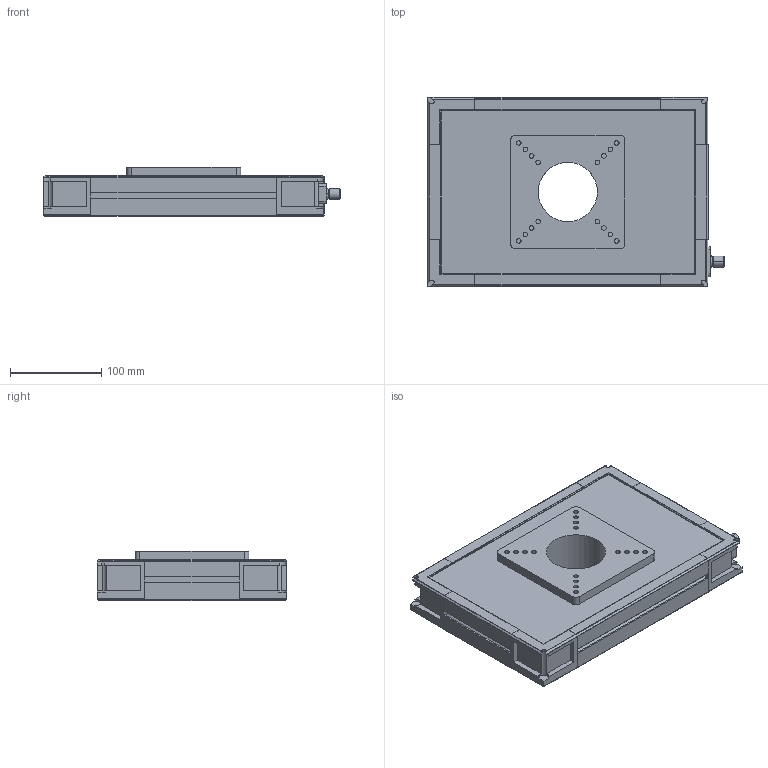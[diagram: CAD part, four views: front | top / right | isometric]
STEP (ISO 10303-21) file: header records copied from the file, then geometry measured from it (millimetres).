
FILE_DESCRIPTION (( 'STEP AP214' ), '1' );
FILE_NAME ('FLOOD-3020.STEP', '2019-06-27T09:53:12', ( '' ), ( '' ), 'SwSTEP 2.0', 'SolidWorks 2014', '' );
FILE_SCHEMA (( 'AUTOMOTIVE_DESIGN' ));
Length unit declared in the file: millimetre
Products named in the file (3): FLOOD-2030 Connector; FLOOD-2030 Body; FLOOD-3020
Assembly tree (2 placements, depth 2):
  FLOOD-3020
    FLOOD-2030 Body
    FLOOD-2030 Connector
Bounding box: 326 x 208 x 54 mm (x, y, z)
Volume: 2608076.8 mm3; surface area: 208854.8 mm2
Topology: 2 solids, 3 shells, 942 faces, 2526 edges, 1639 vertices
Faces by surface type: plane 520, cylinder 312, bspline 70, cone 34, torus 6
Entity records: 35962 total; most frequent: CARTESIAN_POINT 8296, ORIENTED_EDGE 5012, DIRECTION 4744, EDGE_CURVE 2506, VERTEX_POINT 1639, LINE 1616, VECTOR 1616, AXIS2_PLACEMENT_3D 1564
